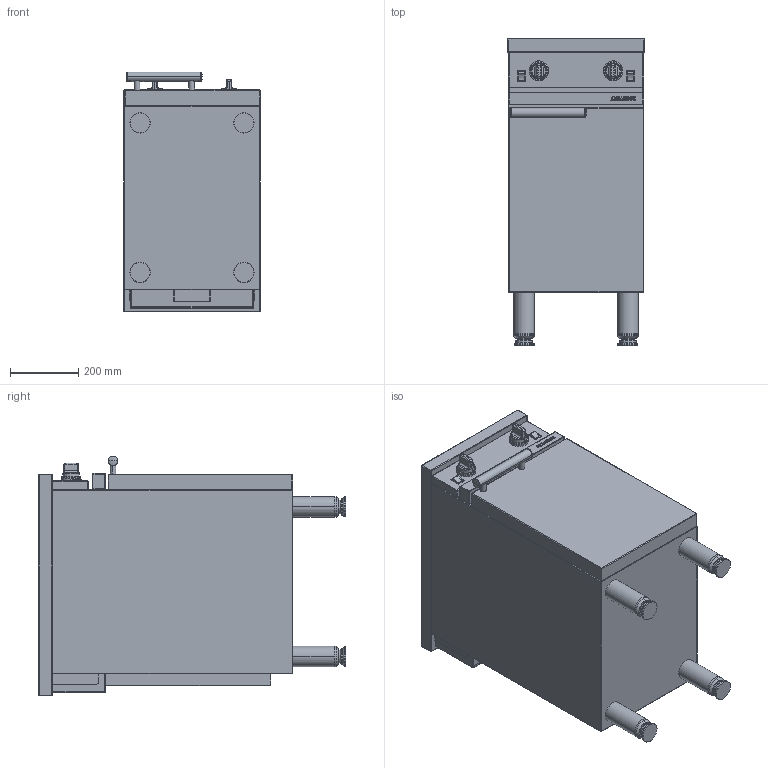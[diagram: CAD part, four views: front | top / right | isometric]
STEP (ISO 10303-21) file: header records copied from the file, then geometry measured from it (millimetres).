
FILE_DESCRIPTION((''),'2;1');
FILE_NAME('CME410MCA_CPM_D_EXPORT_STEP_ASM','2017-11-22T',('r.avril'),(''),'PRO/ENGINEER BY PARAMETRIC TECHNOLOGY CORPORATION, 2014200','PRO/ENGINEER BY PARAMETRIC TECHNOLOGY CORPORATION, 2014200','');
FILE_SCHEMA(('AP203_CONFIGURATION_CONTROLLED_3D_DESIGN_OF_MECHANICAL_PARTS_AND_ASSEMBLIES_MIM_LF { 1 0 10303 403 2 1 2 }'));
Length unit declared in the file: millimetre
Products named in the file (10): MODULES_AMB_400_EXPORT_STEP; TABLE_CME_410_M; 65101004; 65101004_MANETTE_VANNE; 65101004_ASM; TABLE_CME_410_M_ASM; MANETTE_AMB_EXPORT_STEP; BASCULEUR_AMB_EXPORT_DXF; PORTE_MODULE_AMB_400D; CME410MCA_CPM_D_EXPORT_STEP_ASM
Assembly tree (11 placements, depth 4):
  CME410MCA_CPM_D_EXPORT_STEP_ASM
    MODULES_AMB_400_EXPORT_STEP
    TABLE_CME_410_M_ASM
      TABLE_CME_410_M
      65101004_ASM
        65101004
        65101004_MANETTE_VANNE
    MANETTE_AMB_EXPORT_STEP  x2
    BASCULEUR_AMB_EXPORT_DXF  x2
    PORTE_MODULE_AMB_400D
Bounding box: 400 x 901 x 703 mm (x, y, z)
Volume: 62983935.4 mm3; surface area: 4980822.5 mm2
Topology: 19 solids, 37 shells, 741 faces, 2267 edges, 1886 vertices
Faces by surface type: cylinder 301, plane 272, sphere 56, torus 50, cone 38, bspline 24
Entity records: 30976 total; most frequent: CARTESIAN_POINT 7140, DIRECTION 4029, ORIENTED_EDGE 3292, EDGE_CURVE 1871, AXIS2_PLACEMENT_3D 1492, VERTEX_POINT 1315, VECTOR 1015, LINE 1015
